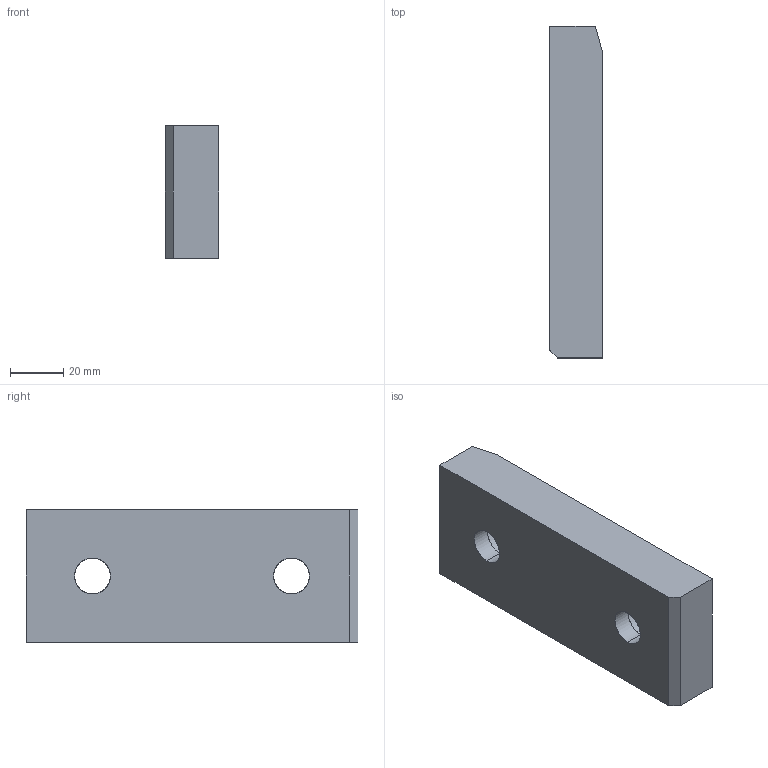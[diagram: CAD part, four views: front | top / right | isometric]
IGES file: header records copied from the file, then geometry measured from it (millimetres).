
Start section: START RECORD GO HERE.
Global section: file name: A915-50X125.igs; native system: DASSAULT SYSTEMES CATIA V5 R20 - www.3ds.com; preprocessor: CATIA Version 5 Release 20 ; author: Utente; organization: NB04-ASUS; date: 20200407.204712; units: millimetre
Bounding box: 20 x 125 x 50 mm (x, y, z)
Surface area: 20760.6 mm2 (no closed solid volume)
Topology: 0 solids, 0 shells, 23 faces, 106 edges, 106 vertices
Faces by surface type: revolution 13, extrusion 10
